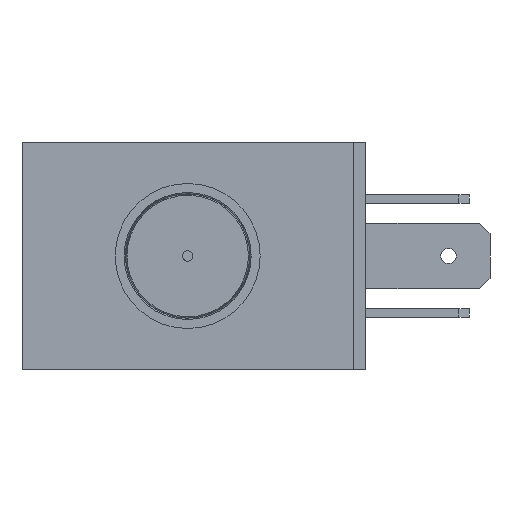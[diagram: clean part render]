
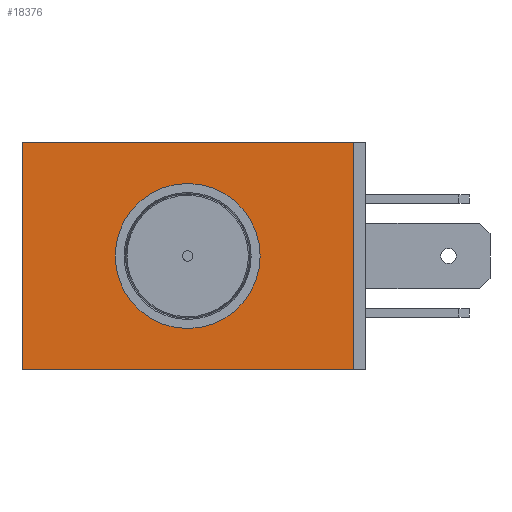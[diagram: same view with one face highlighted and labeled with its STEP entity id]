
A CAD part, left-side view. The second image highlights one B-rep face of the part: STEP entity #18376.
In plain terms, the highlighted planar face has unit normal (-1, 0, 0).
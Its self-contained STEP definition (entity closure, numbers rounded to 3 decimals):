
#1265 = CARTESIAN_POINT ( 'NONE',  ( 0., 0., 0. ) ) ;
#1270 = PLANE ( 'NONE',  #2867 ) ;
#1271 = DIRECTION ( 'NONE',  ( -1., 0., 0. ) ) ;
#1272 = DIRECTION ( 'NONE',  ( 0., 0.707, 0.707 ) ) ;
#1971 = FACE_OUTER_BOUND ( 'NONE', #22338, .T. ) ;
#1979 = FACE_BOUND ( 'NONE', #21964, .T. ) ;
#2867 = AXIS2_PLACEMENT_3D ( 'NONE', #1265, #1271, #1272 ) ;
#4118 = AXIS2_PLACEMENT_3D ( 'NONE', #10204, #10206, #10207 ) ;
#8602 = LINE ( 'NONE', #9716, #8603 ) ;
#8603 = VECTOR ( 'NONE', #9717, 1000. ) ;
#8680 = VECTOR ( 'NONE', #9962, 1000. ) ;
#8685 = LINE ( 'NONE', #9961, #8680 ) ;
#8777 = LINE ( 'NONE', #10165, #8778 ) ;
#8778 = VECTOR ( 'NONE', #10166, 1000. ) ;
#8806 = CIRCLE ( 'NONE', #4118, 7. ) ;
#9716 = CARTESIAN_POINT ( 'NONE',  ( 0., 32., 0. ) ) ;
#9717 = DIRECTION ( 'NONE',  ( 0., 0., 1. ) ) ;
#9961 = CARTESIAN_POINT ( 'NONE',  ( 0., 32., 0. ) ) ;
#9962 = DIRECTION ( 'NONE',  ( 0., -1., 0. ) ) ;
#10165 = CARTESIAN_POINT ( 'NONE',  ( 0., 0., 0. ) ) ;
#10166 = DIRECTION ( 'NONE',  ( 0., 0., 1. ) ) ;
#10204 = CARTESIAN_POINT ( 'NONE',  ( 0., 16., 11. ) ) ;
#10206 = DIRECTION ( 'NONE',  ( 1., 0., 0. ) ) ;
#10207 = DIRECTION ( 'NONE',  ( 0., 0., -1. ) ) ;
#14921 = LINE ( 'NONE', #16267, #14924 ) ;
#14924 = VECTOR ( 'NONE', #16268, 1000. ) ;
#16267 = CARTESIAN_POINT ( 'NONE',  ( 0., 0., 22. ) ) ;
#16268 = DIRECTION ( 'NONE',  ( 0., 1., 0. ) ) ;
#17380 = VERTEX_POINT ( 'NONE', #17381 ) ;
#17381 = CARTESIAN_POINT ( 'NONE',  ( 0., 16., 4. ) ) ;
#17565 = ORIENTED_EDGE ( 'NONE', *, *, #20721, .T. ) ;
#17583 = ORIENTED_EDGE ( 'NONE', *, *, #19179, .T. ) ;
#17601 = ORIENTED_EDGE ( 'NONE', *, *, #19196, .T. ) ;
#17603 = ORIENTED_EDGE ( 'NONE', *, *, #19111, .T. ) ;
#17611 = ORIENTED_EDGE ( 'NONE', *, *, #19046, .F. ) ;
#17745 = VERTEX_POINT ( 'NONE', #25503 ) ;
#17756 = VERTEX_POINT ( 'NONE', #25514 ) ;
#17978 = VERTEX_POINT ( 'NONE', #25736 ) ;
#17979 = VERTEX_POINT ( 'NONE', #25737 ) ;
#18376 = ADVANCED_FACE ( 'NONE', ( #1971, #1979 ), #1270, .T. ) ;
#19046 = EDGE_CURVE ( 'NONE', #17978, #17745, #8602, .T. ) ;
#19111 = EDGE_CURVE ( 'NONE', #17978, #17979, #8685, .T. ) ;
#19179 = EDGE_CURVE ( 'NONE', #17979, #17756, #8777, .T. ) ;
#19196 = EDGE_CURVE ( 'NONE', #17380, #17380, #8806, .T. ) ;
#20721 = EDGE_CURVE ( 'NONE', #17756, #17745, #14921, .T. ) ;
#21964 = EDGE_LOOP ( 'NONE', ( #17601 ) ) ;
#22338 = EDGE_LOOP ( 'NONE', ( #17565, #17611, #17603, #17583 ) ) ;
#25503 = CARTESIAN_POINT ( 'NONE',  ( 0., 32., 22. ) ) ;
#25514 = CARTESIAN_POINT ( 'NONE',  ( 0., 0., 22. ) ) ;
#25736 = CARTESIAN_POINT ( 'NONE',  ( 0., 32., 0. ) ) ;
#25737 = CARTESIAN_POINT ( 'NONE',  ( 0., 0., 0. ) ) ;
